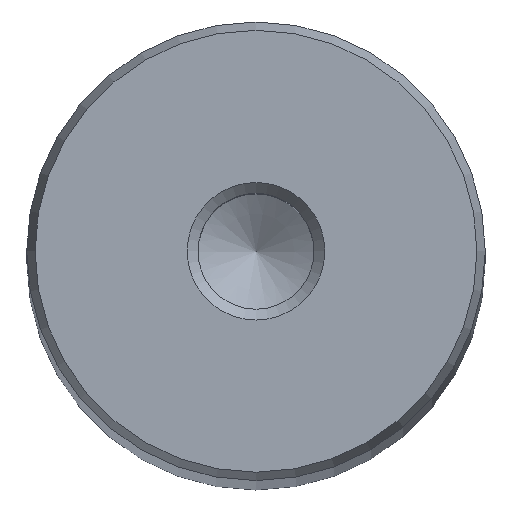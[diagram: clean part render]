
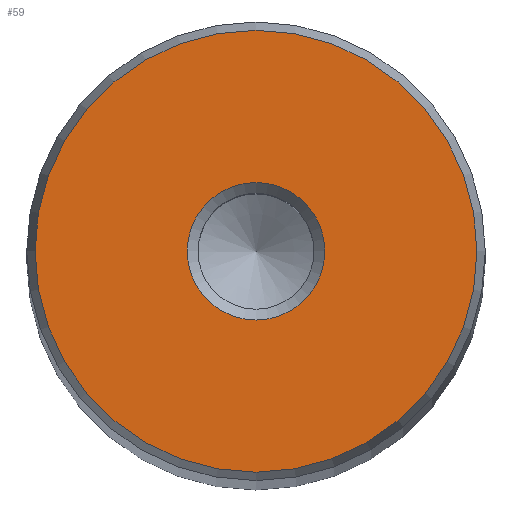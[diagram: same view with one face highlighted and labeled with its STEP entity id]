
A CAD part, top view. The second image highlights one B-rep face of the part: STEP entity #59.
In plain terms, the highlighted planar face has unit normal (0, 0, 1).
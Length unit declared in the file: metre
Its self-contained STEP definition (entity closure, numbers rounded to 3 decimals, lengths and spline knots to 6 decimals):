
#59 = ADVANCED_FACE( '', ( #124, #125 ), #126, .T. );
#124 = FACE_OUTER_BOUND( '', #183, .T. );
#125 = FACE_BOUND( '', #184, .T. );
#126 = PLANE( '', #185 );
#183 = EDGE_LOOP( '', ( #258 ) );
#184 = EDGE_LOOP( '', ( #259 ) );
#185 = AXIS2_PLACEMENT_3D( '', #260, #261, #262 );
#258 = ORIENTED_EDGE( '', *, *, #290, .T. );
#259 = ORIENTED_EDGE( '', *, *, #271, .T. );
#260 = CARTESIAN_POINT( '', ( 0., 0., 0.473 ) );
#261 = DIRECTION( '', ( 0., 0., 1. ) );
#262 = DIRECTION( '', ( 1., 0., 0. ) );
#271 = EDGE_CURVE( '', #299, #299, #300, .T. );
#290 = EDGE_CURVE( '', #325, #325, #326, .T. );
#299 = VERTEX_POINT( '', #336 );
#300 = CIRCLE( '', #337, 0.006 );
#325 = VERTEX_POINT( '', #362 );
#326 = CIRCLE( '', #363, 0.019272 );
#336 = CARTESIAN_POINT( '', ( 0.006, 0., 0.473 ) );
#337 = AXIS2_PLACEMENT_3D( '', #373, #374, #375 );
#362 = CARTESIAN_POINT( '', ( 0.019272, 0., 0.473 ) );
#363 = AXIS2_PLACEMENT_3D( '', #400, #401, #402 );
#373 = CARTESIAN_POINT( '', ( 0., 0., 0.473 ) );
#374 = DIRECTION( '', ( 0., 0., -1. ) );
#375 = DIRECTION( '', ( 1., 0., 0. ) );
#400 = CARTESIAN_POINT( '', ( 0., 0., 0.473 ) );
#401 = DIRECTION( '', ( 0., 0., 1. ) );
#402 = DIRECTION( '', ( 1., 0., 0. ) );
